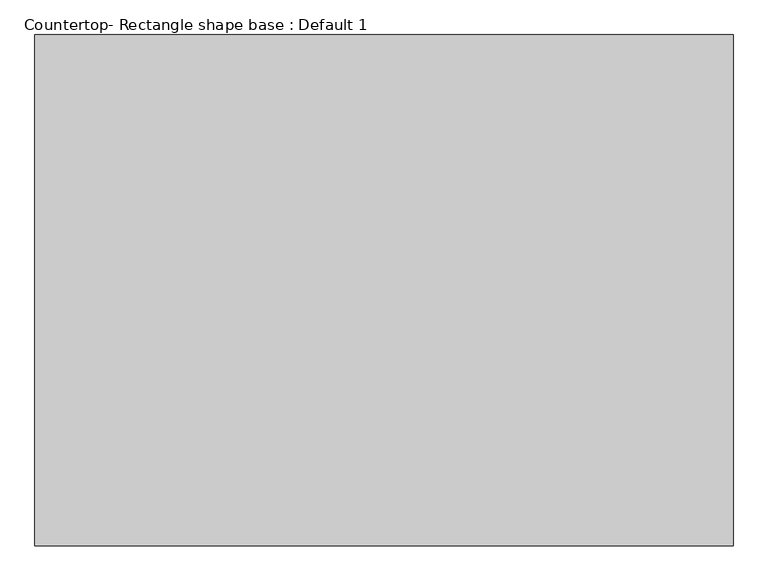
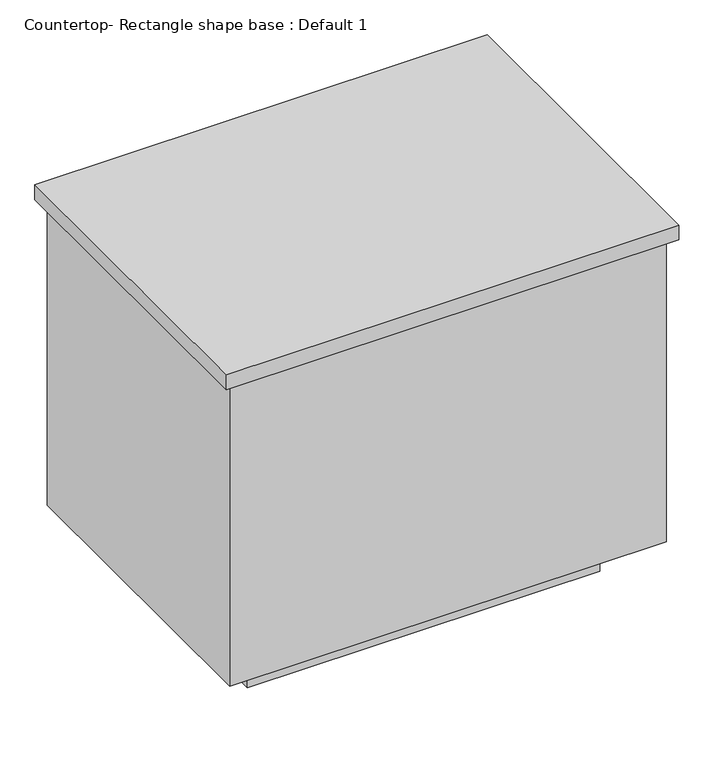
"""IFC4 building model written with IfcOpenShell, lengths in millimetres: proxy geometry, Countertop- Rectangle shape base : Default 1."""

from ifc_helpers import new_model, si_unit, frame, origin, origin_with_axes, place, context, project, spatial, polyline, outline, extrude, source, transform, mapped, element, save


def countertop_rectangle_shape_base_default_1_347bcdbc(model_context):
    return source(origin(), model_context, "Body", "SweptSolid", [
        extrude(outline(polyline([(215.9, -19.05), (215.9, 781.05), (1308.1, 781.05), (1308.1, -19.05), (215.9, -19.05)])), frame((0.0, 0.0, 876.3), z_axis=(0.0, 0.0, 1.0), x_axis=(1.0, 0.0, 0.0)), (0.0, 0.0, 1.0), 38.1),
        extrude(outline(polyline([(1289.05, 762.0), (1289.05, 0.0), (234.95, 0.0), (234.95, 762.0), (1289.05, 762.0)])), frame((0.0, 0.0, 101.6), z_axis=(0.0, 0.0, 1.0), x_axis=(1.0, 0.0, 0.0)), (0.0, 0.0, 1.0), 774.7),
        extrude(outline(polyline([(1187.45, 660.4), (1187.45, 101.6), (336.55, 101.6), (336.55, 660.4), (1187.45, 660.4)])), origin_with_axes(), (0.0, 0.0, 1.0), 101.6),
    ])


if __name__ == "__main__":
    model = new_model("IFC4")
    model_context = context("Model", 3, world=origin())
    ifc_project = project(units=[si_unit("LENGTHUNIT", "METRE", prefix="MILLI")], contexts=[model_context])
    site = spatial("IfcSite", under=ifc_project)
    building = spatial("IfcBuilding", under=site)
    placement = place(None, origin())
    countertop_rectangle_shape_base_default_1_shape = countertop_rectangle_shape_base_default_1_347bcdbc(model_context)
    element("IfcBuildingElementProxy", 1, Name="Countertop- Rectangle shape base : Default 1", ObjectType="Countertop- Rectangle shape base : Default 1", at=placement, inside=building, context=model_context, shape_type="MappedRepresentation", body=[
        mapped(countertop_rectangle_shape_base_default_1_shape, transform((0.0, 0.0, 0.0), x_axis=(1.0, 0.0, 0.0), y_axis=(0.0, 1.0, 0.0), z_axis=(0.0, 0.0, 1.0))),
    ])
    save(model, "model.ifc")
